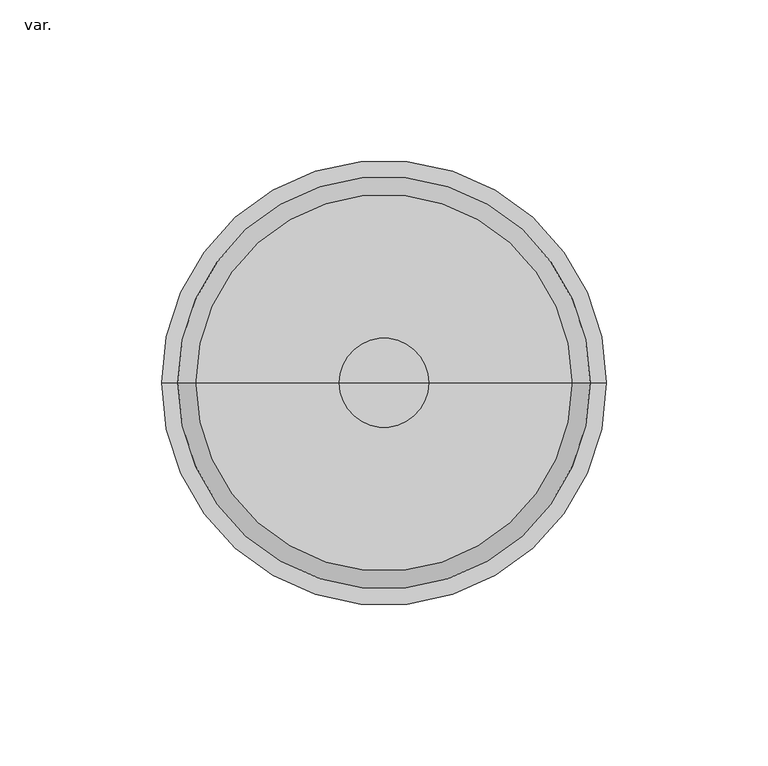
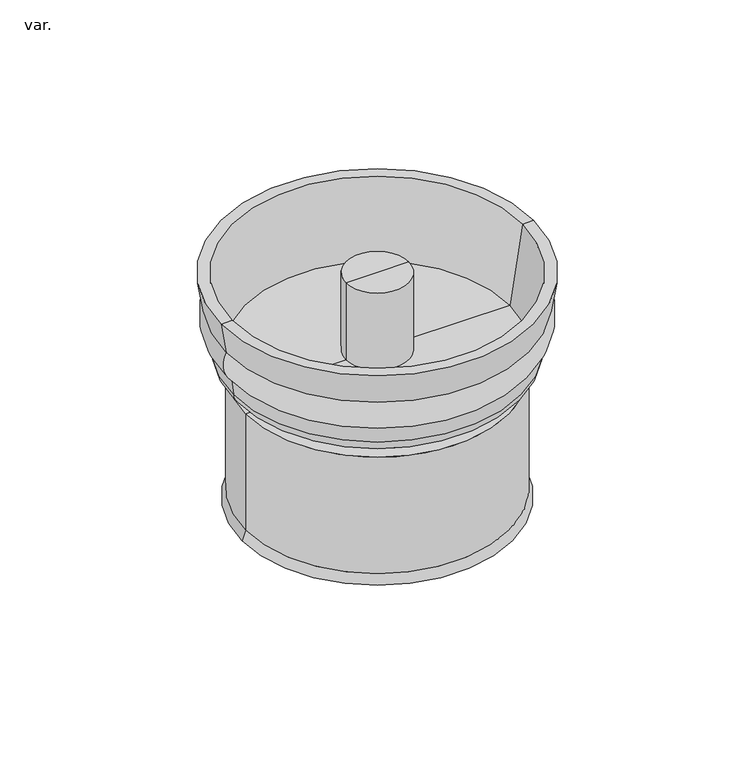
"""IFC4 building model written with IfcOpenShell, lengths in millimetres: pipe fitting geometry, AmancoWavin_ConexõesdeTubos_SaneamentoEsgotoNãoUsarTampãoparaTIL : var.."""

from ifc_helpers import new_model, si_unit, point, frame, origin, place, context, project, spatial, polyline, circle_curve, ellipse_curve, trimmed, source, transform, mapped, element, save
from ifc_brep_helpers import plane_surface, cylinder_surface, revolved_surface, advanced_brep


def var_ec80d9ff(model_context):
    return source(origin(), model_context, "Body", "AdvancedBrep", [
        advanced_brep(
        [(59.55, 0.0, 0.0), (-59.55, 0.0, 0.0), (-58.0, 0.0, 4.25859), (58.0, 0.0, 4.25859), (56.8895556, 0.0, 0.0), (-56.8895556, 0.0, 0.0), (55.5, 0.0, 3.8177725), (-55.5, 0.0, 3.8177725), (55.5, 0.0, 56.0), (-55.5, 0.0, 56.0), (49.5, 0.0, 56.0), (-49.5, 0.0, 56.0), (49.5, 0.0, 65.6626384), (-49.5, 0.0, 65.6626384), (63.85, 0.0, 103.9405238), (-63.85, 0.0, 103.9405238), (-58.3217917, 0.0, 68.1626384), (58.3217917, 0.0, 68.1626384), (66.5097578, 0.0, 89.9905238), (-66.5097578, 0.0, 89.9905238), (-68.85, 0.0, 103.9405238), (68.85, 0.0, 103.9405238), (64.1984412, 0.0, 76.2333324), (-64.1984412, 0.0, 76.2333324), (52.0, 0.0, 58.5), (-52.0, 0.0, 58.5), (-52.0, 0.0, 63.1626384), (52.0, 0.0, 63.1626384), (58.0, 0.0, 58.5), (-58.0, 0.0, 58.5), (63.3489044, 0.0, 69.3081402), (-63.3489044, 0.0, 69.3081402), (56.8933558, 0.0, 63.1626384), (-56.8933558, 0.0, 63.1626384), (0.0, 0.0, 65.6626384), (13.8, 0.0, 103.9405238), (-13.8, 0.0, 103.9405238), (0.0, 0.0, 103.9405238), (13.8, 0.0, 68.1626384), (-13.8, 0.0, 68.1626384)],
        [
            (0, 1, circle_curve(frame((0.0, 0.0, 0.0), z_axis=(0.0, 0.0, 1.0), x_axis=(-1.0, 0.0, 0.0)), 59.55)),
            (1, 2),
            (2, 3, circle_curve(frame((0.0, 0.0, 4.25859), z_axis=(0.0, 0.0, -1.0), x_axis=(-1.0, 0.0, 0.0)), 58.0)),
            (3, 0),
            (1, 0, circle_curve(frame((0.0, 0.0, 0.0), z_axis=(0.0, 0.0, 1.0), x_axis=(-1.0, 0.0, 0.0)), 59.55)),
            (3, 2, circle_curve(frame((0.0, 0.0, 4.25859), z_axis=(0.0, 0.0, -1.0), x_axis=(-1.0, 0.0, 0.0)), 58.0)),
            (4, 5, circle_curve(frame((0.0, 0.0, 0.0), z_axis=(0.0, 0.0, 1.0), x_axis=(-1.0, 0.0, 0.0)), 56.8895556)),
            (5, 1),
            (0, 4),
            (5, 4, circle_curve(frame((0.0, 0.0, 0.0), z_axis=(0.0, 0.0, 1.0), x_axis=(-1.0, 0.0, 0.0)), 56.8895556)),
            (6, 7, circle_curve(frame((0.0, 0.0, 3.8177725), z_axis=(0.0, 0.0, 1.0), x_axis=(-1.0, 0.0, 0.0)), 55.5)),
            (7, 5),
            (4, 6),
            (7, 6, circle_curve(frame((0.0, 0.0, 3.8177725), z_axis=(0.0, 0.0, 1.0), x_axis=(-1.0, 0.0, 0.0)), 55.5)),
            (8, 9, circle_curve(frame((0.0, 0.0, 56.0), z_axis=(0.0, 0.0, 1.0), x_axis=(-1.0, 0.0, 0.0)), 55.5)),
            (9, 7),
            (6, 8),
            (9, 8, circle_curve(frame((0.0, 0.0, 56.0), z_axis=(0.0, 0.0, 1.0), x_axis=(-1.0, 0.0, 0.0)), 55.5)),
            (10, 11, circle_curve(frame((0.0, 0.0, 56.0), z_axis=(0.0, 0.0, 1.0), x_axis=(-1.0, 0.0, 0.0)), 49.5)),
            (11, 9),
            (8, 10),
            (11, 10, circle_curve(frame((0.0, 0.0, 56.0), z_axis=(0.0, 0.0, 1.0), x_axis=(-1.0, 0.0, 0.0)), 49.5)),
            (12, 13, circle_curve(frame((0.0, 0.0, 65.6626384), z_axis=(0.0, 0.0, 1.0), x_axis=(-1.0, 0.0, 0.0)), 49.5)),
            (13, 11),
            (10, 12),
            (13, 12, circle_curve(frame((0.0, 0.0, 65.6626384), z_axis=(0.0, 0.0, 1.0), x_axis=(-1.0, 0.0, 0.0)), 49.5)),
            (14, 15, circle_curve(frame((0.0, 0.0, 103.9405238), z_axis=(0.0, 0.0, 1.0), x_axis=(-1.0, 0.0, 0.0)), 63.85)),
            (15, 16),
            (16, 17, circle_curve(frame((0.0, 0.0, 68.1626384), z_axis=(0.0, 0.0, -1.0), x_axis=(-1.0, 0.0, 0.0)), 58.3217917)),
            (17, 14),
            (15, 14, circle_curve(frame((0.0, 0.0, 103.9405238), z_axis=(0.0, 0.0, 1.0), x_axis=(-1.0, 0.0, 0.0)), 63.85)),
            (17, 16, circle_curve(frame((0.0, 0.0, 68.1626384), z_axis=(0.0, 0.0, -1.0), x_axis=(-1.0, 0.0, 0.0)), 58.3217917)),
            (18, 19, circle_curve(frame((0.0, 0.0, 89.9905238), z_axis=(0.0, 0.0, 1.0), x_axis=(-1.0, 0.0, 0.0)), 66.5097578)),
            (19, 20),
            (20, 21, circle_curve(frame((0.0, 0.0, 103.9405238), z_axis=(0.0, 0.0, -1.0), x_axis=(-1.0, 0.0, 0.0)), 68.85)),
            (21, 18),
            (19, 18, circle_curve(frame((0.0, 0.0, 89.9905238), z_axis=(0.0, 0.0, 1.0), x_axis=(-1.0, 0.0, 0.0)), 66.5097578)),
            (21, 20, circle_curve(frame((0.0, 0.0, 103.9405238), z_axis=(0.0, 0.0, -1.0), x_axis=(-1.0, 0.0, 0.0)), 68.85)),
            (22, 23, circle_curve(frame((0.0, 0.0, 76.2333324), z_axis=(0.0, 0.0, 1.0), x_axis=(-1.0, 0.0, 0.0)), 64.1984412)),
            (23, 19, circle_curve(frame((-56.8761915, 0.0, 84.5362835), z_axis=(0.0, 1.0, 0.0), x_axis=(1.0, 0.0, 0.0)), 11.0704263)),
            (18, 22, circle_curve(frame((56.8761915, 0.0, 84.5362835), z_axis=(0.0, 1.0, 0.0), x_axis=(-1.0, 0.0, 0.0)), 11.0704263)),
            (23, 22, circle_curve(frame((0.0, 0.0, 76.2333324), z_axis=(0.0, 0.0, 1.0), x_axis=(-1.0, 0.0, 0.0)), 64.1984412)),
            (24, 25, circle_curve(frame((0.0, 0.0, 58.5), z_axis=(0.0, 0.0, 1.0), x_axis=(-1.0, 0.0, 0.0)), 52.0)),
            (25, 26),
            (26, 27, circle_curve(frame((0.0, 0.0, 63.1626384), z_axis=(0.0, 0.0, -1.0), x_axis=(-1.0, 0.0, 0.0)), 52.0)),
            (27, 24),
            (25, 24, circle_curve(frame((0.0, 0.0, 58.5), z_axis=(0.0, 0.0, 1.0), x_axis=(-1.0, 0.0, 0.0)), 52.0)),
            (27, 26, circle_curve(frame((0.0, 0.0, 63.1626384), z_axis=(0.0, 0.0, -1.0), x_axis=(-1.0, 0.0, 0.0)), 52.0)),
            (28, 29, circle_curve(frame((0.0, 0.0, 58.5), z_axis=(0.0, 0.0, 1.0), x_axis=(-1.0, 0.0, 0.0)), 58.0)),
            (29, 25),
            (24, 28),
            (29, 28, circle_curve(frame((0.0, 0.0, 58.5), z_axis=(0.0, 0.0, 1.0), x_axis=(-1.0, 0.0, 0.0)), 58.0)),
            (2, 29),
            (28, 3),
            (30, 31, circle_curve(frame((0.0, 0.0, 69.3081402), z_axis=(0.0, 0.0, 1.0), x_axis=(-1.0, 0.0, 0.0)), 63.3489044)),
            (31, 23),
            (22, 30),
            (31, 30, circle_curve(frame((0.0, 0.0, 69.3081402), z_axis=(0.0, 0.0, 1.0), x_axis=(-1.0, 0.0, 0.0)), 63.3489044)),
            (32, 33, circle_curve(frame((0.0, 0.0, 63.1626384), z_axis=(0.0, 0.0, 1.0), x_axis=(-1.0, 0.0, 0.0)), 56.8933558)),
            (33, 31, circle_curve(frame((-56.8933558, 0.0, 69.6260082), z_axis=(0.0, 1.0, 0.0), x_axis=(1.0, 0.0, 0.0)), 6.4633698)),
            (30, 32, circle_curve(frame((56.8933558, 0.0, 69.6260082), z_axis=(0.0, 1.0, 0.0), x_axis=(-1.0, 0.0, 0.0)), 6.4633698)),
            (33, 32, circle_curve(frame((0.0, 0.0, 63.1626384), z_axis=(0.0, 0.0, 1.0), x_axis=(-1.0, 0.0, 0.0)), 56.8933558)),
            (26, 33),
            (32, 27),
            (34, 13),
            (12, 34),
            (35, 36, circle_curve(frame((0.0, 0.0, 103.9405238), z_axis=(0.0, 0.0, 1.0), x_axis=(-1.0, 0.0, 0.0)), 13.8)),
            (36, 37),
            (37, 35),
            (36, 35, circle_curve(frame((0.0, 0.0, 103.9405238), z_axis=(0.0, 0.0, 1.0), x_axis=(-1.0, 0.0, 0.0)), 13.8)),
            (38, 39, circle_curve(frame((0.0, 0.0, 68.1626384), z_axis=(0.0, 0.0, 1.0), x_axis=(-1.0, 0.0, 0.0)), 13.8)),
            (39, 36),
            (35, 38),
            (39, 38, circle_curve(frame((0.0, 0.0, 68.1626384), z_axis=(0.0, 0.0, 1.0), x_axis=(-1.0, 0.0, 0.0)), 13.8)),
            (16, 39),
            (38, 17),
            (20, 15),
            (14, 21),
        ],
        [
            revolved_surface(polyline([(-58.0, 0.0, 4.25859), (-59.55, 0.0, 0.0)]), (0.0, 0.0, 2160.666596), (0.0, 0.0, -1.0)),
            plane_surface(frame((0.0, 0.0, 0.0), z_axis=(0.0, 0.0, -1.0), x_axis=(-1.0, 0.0, 0.0))),
            revolved_surface(polyline([(-56.8895556, 0.0, 0.0), (-55.5, 0.0, 3.8177725)]), (0.0, 0.0, 2160.666596), (0.0, 0.0, -1.0)),
            revolved_surface(polyline([(-55.5, 0.0, 3.8177725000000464), (-55.5, 0.0, 56.0)]), (0.0, 0.0, 2160.666596), (0.0, 0.0, -1.0)),
            plane_surface(frame((0.0, 0.0, 56.0), z_axis=(0.0, 0.0, -1.0), x_axis=(-1.0, 0.0, 0.0))),
            revolved_surface(polyline([(-49.5, 0.0, 56.0), (-49.5, 0.0, 65.6626384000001)]), (0.0, 0.0, 2160.666596), (0.0, 0.0, -1.0)),
            revolved_surface(polyline([(-58.3217917, 0.0, 68.1626384), (-63.85, 0.0, 103.9405238)]), (0.0, 0.0, 2160.666596), (0.0, 0.0, -1.0)),
            revolved_surface(polyline([(-68.85, 0.0, 103.9405238), (-66.5097578, 0.0, 89.9905238)]), (0.0, 0.0, 2160.666596), (0.0, 0.0, -1.0)),
            revolved_surface(trimmed(ellipse_curve(frame((-56.8761915, 0.0, 84.5362835), z_axis=(0.0, -1.0, 0.0), x_axis=(1.0, 0.0, 0.0)), 11.0704263, 11.0704263), [point((-66.5097578, 0.0, 89.9905238))], [point((-64.1984412, 0.0, 76.2333324))], True, "CARTESIAN"), (0.0, 0.0, 2160.666596), (0.0, 0.0, -1.0)),
            cylinder_surface(frame((0.0, 0.0, 2160.666596), z_axis=(0.0, 0.0, -1.0), x_axis=(-1.0, 0.0, 0.0)), 52.0),
            plane_surface(frame((0.0, 0.0, 58.5), z_axis=(0.0, 0.0, 1.0), x_axis=(-1.0, 0.0, 0.0))),
            cylinder_surface(frame((0.0, 0.0, 2160.666596), z_axis=(0.0, 0.0, -1.0), x_axis=(-1.0, 0.0, 0.0)), 58.0),
            revolved_surface(polyline([(-64.1984412, 0.0, 76.2333324), (-63.3489044, 0.0, 69.3081402)]), (0.0, 0.0, 2160.666596), (0.0, 0.0, -1.0)),
            revolved_surface(trimmed(ellipse_curve(frame((-56.8933558, 0.0, 69.6260082), z_axis=(0.0, -1.0, 0.0), x_axis=(1.0, 0.0, 0.0)), 6.4633698, 6.4633698), [point((-63.3489044, 0.0, 69.3081402))], [point((-56.8933558, 0.0, 63.1626384))], True, "CARTESIAN"), (0.0, 0.0, 2160.666596), (0.0, 0.0, -1.0)),
            plane_surface(frame((0.0, 0.0, 63.1626384), z_axis=(0.0, 0.0, -1.0), x_axis=(-1.0, 0.0, 0.0))),
            plane_surface(frame((0.0, 0.0, 65.6626384), z_axis=(0.0, 0.0, -1.0), x_axis=(-1.0, 0.0, 0.0))),
            plane_surface(frame((0.0, 0.0, 103.9405238), z_axis=(0.0, 0.0, 1.0), x_axis=(-1.0, 0.0, 0.0))),
            cylinder_surface(frame((0.0, 0.0, 2160.666596), z_axis=(0.0, 0.0, -1.0), x_axis=(-1.0, 0.0, 0.0)), 13.8),
            plane_surface(frame((0.0, 0.0, 68.1626384), z_axis=(0.0, 0.0, 1.0), x_axis=(-1.0, 0.0, 0.0))),
        ],
        [
            (0, [[1, 2, 3, 4]]),
            (0, [[5, -4, 6, -2]]),
            (1, [[7, 8, -1, 9]]),
            (1, [[10, -9, -5, -8]]),
            (2, [[11, 12, -7, 13]]),
            (2, [[14, -13, -10, -12]]),
            (3, [[15, 16, -11, 17]]),
            (3, [[18, -17, -14, -16]]),
            (4, [[19, 20, -15, 21]]),
            (4, [[22, -21, -18, -20]]),
            (5, [[23, 24, -19, 25]]),
            (5, [[26, -25, -22, -24]]),
            (6, [[27, 28, 29, 30]]),
            (6, [[31, -30, 32, -28]]),
            (7, [[33, 34, 35, 36]]),
            (7, [[37, -36, 38, -34]]),
            (8, [[39, 40, -33, 41]]),
            (8, [[42, -41, -37, -40]]),
            (9, [[43, 44, 45, 46]]),
            (9, [[47, -46, 48, -44]]),
            (10, [[49, 50, -43, 51]]),
            (10, [[52, -51, -47, -50]]),
            (11, [[-3, 53, -49, 54]]),
            (11, [[-6, -54, -52, -53]]),
            (12, [[55, 56, -39, 57]]),
            (12, [[58, -57, -42, -56]]),
            (13, [[59, 60, -55, 61]]),
            (13, [[62, -61, -58, -60]]),
            (14, [[-45, 63, -59, 64]]),
            (14, [[-48, -64, -62, -63]]),
            (15, [[65, -23, 66]]),
            (15, [[-66, -26, -65]]),
            (16, [[67, 68, 69]]),
            (16, [[70, -69, -68]]),
            (17, [[71, 72, -67, 73]]),
            (17, [[74, -73, -70, -72]]),
            (18, [[-29, 75, -71, 76]]),
            (18, [[-32, -76, -74, -75]]),
            (16, [[-35, 77, -27, 78]]),
            (16, [[-38, -78, -31, -77]]),
        ],
    ),
    ])


if __name__ == "__main__":
    model = new_model("IFC4")
    model_context = context("Model", 3, world=origin())
    ifc_project = project(units=[si_unit("LENGTHUNIT", "METRE", prefix="MILLI")], contexts=[model_context])
    site = spatial("IfcSite", under=ifc_project)
    building = spatial("IfcBuilding", under=site)
    placement = place(None, origin())
    var_shape = var_ec80d9ff(model_context)
    element("IfcPipeFitting", 1, ObjectType="AmancoWavin_ConexõesdeTubos_SaneamentoEsgotoNãoUsarTampãoparaTIL : var.", at=placement, inside=building, context=model_context, shape_type="MappedRepresentation", body=[
        mapped(var_shape, transform((0.0, 0.0, 0.0), x_axis=(1.0, 0.0, 0.0), y_axis=(0.0, 1.0, 0.0), z_axis=(0.0, 0.0, 1.0))),
    ])
    save(model, "model.ifc")
